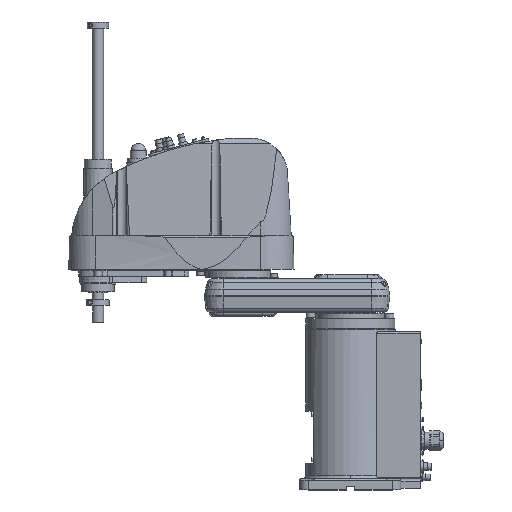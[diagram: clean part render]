
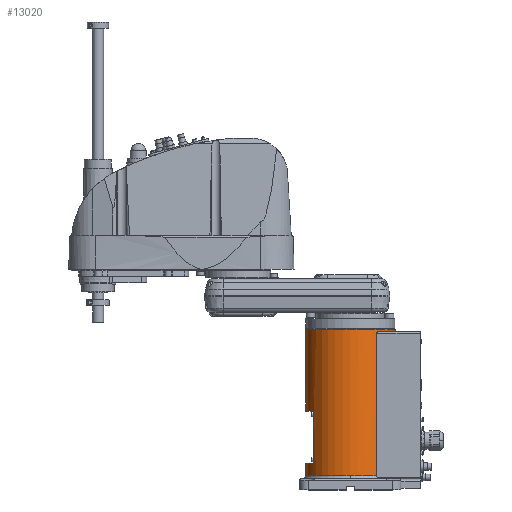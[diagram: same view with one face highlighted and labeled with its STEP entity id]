
A CAD part, top view. The second image highlights one B-rep face of the part: STEP entity #13020.
In plain terms, the highlighted cylindrical face has radius 80 mm (diameter 160 mm), a partial arc.
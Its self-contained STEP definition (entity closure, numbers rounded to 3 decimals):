
#8534 = EDGE_CURVE( '', #20008, #16528, #24429, .T. );
#9308 = EDGE_CURVE( '', #12218, #13420, #25295, .T. );
#9512 = EDGE_CURVE( '', #10758, #15776, #25519, .T. );
#9872 = VERTEX_POINT( '', #25911 );
#10758 = VERTEX_POINT( '', #26896 );
#11534 = VERTEX_POINT( '', #27748 );
#12218 = VERTEX_POINT( '', #28498 );
#12390 = EDGE_CURVE( '', #15894, #10758, #28681, .T. );
#13020 = ADVANCED_FACE( '', ( #29405 ), #29406, .T. );
#13264 = EDGE_CURVE( '', #18332, #17730, #29684, .T. );
#13420 = VERTEX_POINT( '', #29855 );
#14478 = EDGE_CURVE( '', #11534, #18332, #31028, .T. );
#15776 = VERTEX_POINT( '', #32481 );
#15894 = VERTEX_POINT( '', #32607 );
#16180 = EDGE_CURVE( '', #13420, #20008, #32925, .T. );
#16266 = EDGE_CURVE( '', #18726, #9872, #33023, .T. );
#16528 = VERTEX_POINT( '', #33313 );
#17202 = EDGE_CURVE( '', #16528, #15894, #34076, .T. );
#17730 = VERTEX_POINT( '', #34656 );
#18332 = VERTEX_POINT( '', #35340 );
#18726 = VERTEX_POINT( '', #35793 );
#19142 = EDGE_CURVE( '', #15776, #18726, #36255, .T. );
#19528 = EDGE_CURVE( '', #12218, #17730, #36691, .T. );
#20008 = VERTEX_POINT( '', #37217 );
#23730 = EDGE_CURVE( '', #9872, #11534, #41368, .T. );
#24429 = LINE( '', #42438, #42439 );
#25295 = LINE( '', #43725, #43726 );
#25519 = CIRCLE( '', #44059, 80. );
#25911 = CARTESIAN_POINT( '', ( 46.637, 279., 65. ) );
#26896 = CARTESIAN_POINT( '', ( -80., 25., 0. ) );
#27748 = CARTESIAN_POINT( '', ( 50.557, 282., 62. ) );
#28498 = CARTESIAN_POINT( '', ( -80., 286.5, 0. ) );
#28681 = LINE( '', #49005, #49006 );
#29405 = FACE_OUTER_BOUND( '', #50053, .T. );
#29406 = CYLINDRICAL_SURFACE( '', #50054, 80. );
#29684 = LINE( '', #50486, #50487 );
#29855 = CARTESIAN_POINT( '', ( -80., 140.5, 0. ) );
#31028 = CIRCLE( '', #52548, 80. );
#32481 = CARTESIAN_POINT( '', ( 0., 25., 80. ) );
#32607 = CARTESIAN_POINT( '', ( -80., 47.5, 0. ) );
#32925 = CIRCLE( '', #55474, 80. );
#33023 = LINE( '', #55627, #55628 );
#33313 = CARTESIAN_POINT( '', ( -65., 47.5, 46.637 ) );
#34076 = CIRCLE( '', #57272, 80. );
#34656 = CARTESIAN_POINT( '', ( 80., 286.5, 0. ) );
#35340 = CARTESIAN_POINT( '', ( 80., 282., 0. ) );
#35793 = CARTESIAN_POINT( '', ( 46.637, 25., 65. ) );
#36255 = CIRCLE( '', #60492, 80. );
#36691 = CIRCLE( '', #61138, 80. );
#37217 = CARTESIAN_POINT( '', ( -65., 140.5, 46.637 ) );
#41368 = B_SPLINE_CURVE_WITH_KNOTS( '', 3, ( #68044, #68045, #68046, #68047, #68048, #68049, #68050, #68051, #68052, #68053, #68054, #68055, #68056, #68057, #68058, #68059 ), .UNSPECIFIED., .F., .F., ( 4, 2, 2, 2, 2, 2, 2, 4 ), ( 0., 0.565, 1.13, 1.695, 2.26, 4.16, 5.11, 6.06 ), .UNSPECIFIED. );
#42438 = CARTESIAN_POINT( '', ( -65., 94., 46.637 ) );
#42439 = VECTOR( '', #68891, 1. );
#43725 = CARTESIAN_POINT( '', ( -80., 155.75, 0. ) );
#43726 = VECTOR( '', #69918, 1. );
#44059 = AXIS2_PLACEMENT_3D( '', #70182, #70183, #70184 );
#49005 = CARTESIAN_POINT( '', ( -80., 155.75, 0. ) );
#49006 = VECTOR( '', #73561, 1. );
#50053 = EDGE_LOOP( '', ( #74462, #74463, #74464, #74465, #74466, #74467, #74468, #74469, #74470, #74471, #74472, #74473 ) );
#50054 = AXIS2_PLACEMENT_3D( '', #74474, #74475, #74476 );
#50486 = CARTESIAN_POINT( '', ( 80., 155.75, 0. ) );
#50487 = VECTOR( '', #74837, 1. );
#52548 = AXIS2_PLACEMENT_3D( '', #76331, #76332, #76333 );
#55474 = AXIS2_PLACEMENT_3D( '', #78556, #78557, #78558 );
#55627 = CARTESIAN_POINT( '', ( 46.637, 152., 65. ) );
#55628 = VECTOR( '', #78678, 1. );
#57272 = AXIS2_PLACEMENT_3D( '', #79977, #79978, #79979 );
#60492 = AXIS2_PLACEMENT_3D( '', #82666, #82667, #82668 );
#61138 = AXIS2_PLACEMENT_3D( '', #83207, #83208, #83209 );
#68044 = CARTESIAN_POINT( '', ( 46.637, 279., 65. ) );
#68045 = CARTESIAN_POINT( '', ( 46.637, 279.188, 65. ) );
#68046 = CARTESIAN_POINT( '', ( 46.662, 279.376, 64.982 ) );
#68047 = CARTESIAN_POINT( '', ( 46.758, 279.739, 64.913 ) );
#68048 = CARTESIAN_POINT( '', ( 46.828, 279.915, 64.863 ) );
#68049 = CARTESIAN_POINT( '', ( 47.002, 280.242, 64.736 ) );
#68050 = CARTESIAN_POINT( '', ( 47.106, 280.395, 64.661 ) );
#68051 = CARTESIAN_POINT( '', ( 47.333, 280.673, 64.495 ) );
#68052 = CARTESIAN_POINT( '', ( 47.455, 280.799, 64.405 ) );
#68053 = CARTESIAN_POINT( '', ( 47.991, 281.279, 64.009 ) );
#68054 = CARTESIAN_POINT( '', ( 48.491, 281.555, 63.632 ) );
#68055 = CARTESIAN_POINT( '', ( 49.269, 281.826, 63.029 ) );
#68056 = CARTESIAN_POINT( '', ( 49.533, 281.893, 62.822 ) );
#68057 = CARTESIAN_POINT( '', ( 50.054, 281.98, 62.407 ) );
#68058 = CARTESIAN_POINT( '', ( 50.312, 282., 62.2 ) );
#68059 = CARTESIAN_POINT( '', ( 50.557, 282., 62. ) );
#68891 = DIRECTION( '', ( 0., -1., 0. ) );
#69918 = DIRECTION( '', ( 0., -1., 0. ) );
#70182 = CARTESIAN_POINT( '', ( 0., 25., 0. ) );
#70183 = DIRECTION( '', ( 0., 1., 0. ) );
#70184 = DIRECTION( '', ( 1., 0., 0. ) );
#73561 = DIRECTION( '', ( 0., -1., 0. ) );
#74462 = ORIENTED_EDGE( '', *, *, #13264, .T. );
#74463 = ORIENTED_EDGE( '', *, *, #19528, .F. );
#74464 = ORIENTED_EDGE( '', *, *, #9308, .T. );
#74465 = ORIENTED_EDGE( '', *, *, #16180, .T. );
#74466 = ORIENTED_EDGE( '', *, *, #8534, .T. );
#74467 = ORIENTED_EDGE( '', *, *, #17202, .T. );
#74468 = ORIENTED_EDGE( '', *, *, #12390, .T. );
#74469 = ORIENTED_EDGE( '', *, *, #9512, .T. );
#74470 = ORIENTED_EDGE( '', *, *, #19142, .T. );
#74471 = ORIENTED_EDGE( '', *, *, #16266, .T. );
#74472 = ORIENTED_EDGE( '', *, *, #23730, .T. );
#74473 = ORIENTED_EDGE( '', *, *, #14478, .T. );
#74474 = CARTESIAN_POINT( '', ( 0., 155.75, 0. ) );
#74475 = DIRECTION( '', ( 0., -1., 0. ) );
#74476 = DIRECTION( '', ( 1., 0., 0. ) );
#74837 = DIRECTION( '', ( 0., 1., 0. ) );
#76331 = CARTESIAN_POINT( '', ( 0., 282., 0. ) );
#76332 = DIRECTION( '', ( 0., 1., 0. ) );
#76333 = DIRECTION( '', ( 1., 0., 0. ) );
#78556 = CARTESIAN_POINT( '', ( 0., 140.5, 0. ) );
#78557 = DIRECTION( '', ( 0., 1., 0. ) );
#78558 = DIRECTION( '', ( 1., 0., 0. ) );
#78678 = DIRECTION( '', ( 0., 1., 0. ) );
#79977 = CARTESIAN_POINT( '', ( 0., 47.5, 0. ) );
#79978 = DIRECTION( '', ( 0., -1., 0. ) );
#79979 = DIRECTION( '', ( 1., 0., 0. ) );
#82666 = CARTESIAN_POINT( '', ( 0., 25., 0. ) );
#82667 = DIRECTION( '', ( 0., 1., 0. ) );
#82668 = DIRECTION( '', ( 1., 0., 0. ) );
#83207 = CARTESIAN_POINT( '', ( 0., 286.5, 0. ) );
#83208 = DIRECTION( '', ( 0., 1., 0. ) );
#83209 = DIRECTION( '', ( 1., 0., 0. ) );
